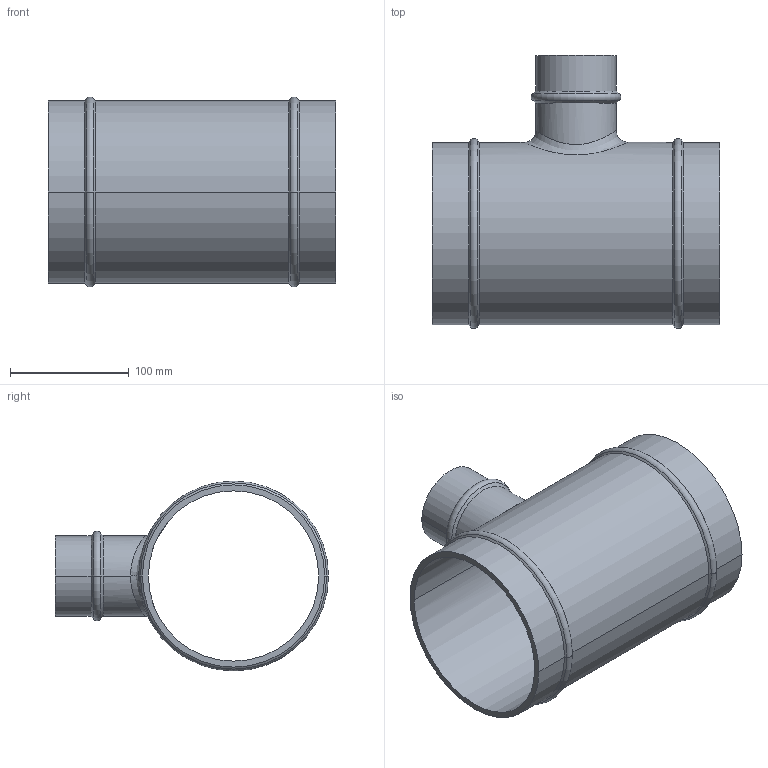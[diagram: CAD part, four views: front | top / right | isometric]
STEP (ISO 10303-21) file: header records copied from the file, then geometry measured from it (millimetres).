
FILE_DESCRIPTION((''),'2;1');
FILE_NAME('2014960700','2017-05-10T',('Administrator'),(''),'PRO/ENGINEER BY PARAMETRIC TECHNOLOGY CORPORATION, 2009360','PRO/ENGINEER BY PARAMETRIC TECHNOLOGY CORPORATION, 2009360','');
FILE_SCHEMA(('AUTOMOTIVE_DESIGN_CC2 { 1 2 10303 214 -1 1 5 2 }'));
Length unit declared in the file: millimetre
Products named in the file (1): 2014960700
Bounding box: 242 x 229.99 x 159.97 mm (x, y, z)
Volume: 624220.1 mm3; surface area: 259755.9 mm2
Topology: 1 solids, 1 shells, 37 faces, 79 edges, 44 vertices
Faces by surface type: cylinder 14, cone 12, torus 6, plane 3, bspline 2
Entity records: 1710 total; most frequent: CARTESIAN_POINT 627, DIRECTION 186, ORIENTED_EDGE 158, PRESENTATION_STYLE_ASSIGNMENT 80, STYLED_ITEM 80, AXIS2_PLACEMENT_3D 79, CURVE_STYLE 79, EDGE_CURVE 79
